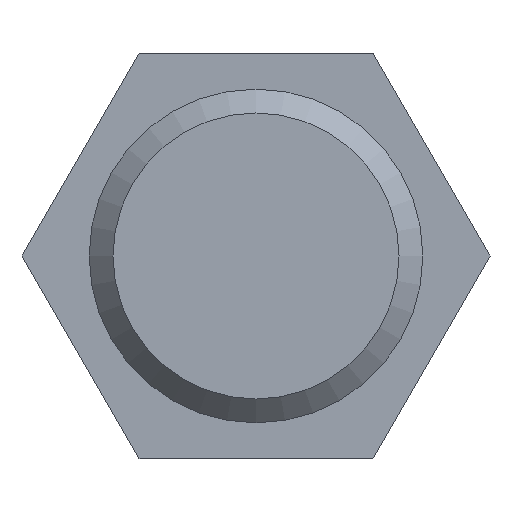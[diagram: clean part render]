
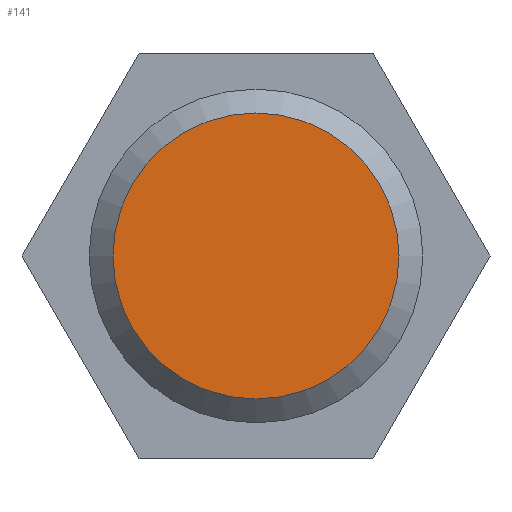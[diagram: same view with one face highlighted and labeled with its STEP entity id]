
A CAD part, left-side view. The second image highlights one B-rep face of the part: STEP entity #141.
In plain terms, the highlighted planar face has unit normal (-1, 0, 0).
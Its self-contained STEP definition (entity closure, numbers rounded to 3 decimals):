
#110=CARTESIAN_POINT('',(0.,6.0,0.));
#111=VERTEX_POINT('',#110);
#112=CARTESIAN_POINT('',(0.,0.0,0.0));
#113=DIRECTION('',(1.0,0.0,0.0));
#114=DIRECTION('',(0.0,-1.0,0.0));
#115=AXIS2_PLACEMENT_3D('',#112,#113,#114);
#116=CIRCLE('',#115,6.0);
#117=EDGE_CURVE('',#111,#111,#116,.T.);
#133=CARTESIAN_POINT('',(0.,3.5,0.0));
#134=DIRECTION('',(-1.0,0.0,0.0));
#135=DIRECTION('',(0.0,0.0,1.0));
#136=AXIS2_PLACEMENT_3D('',#133,#134,#135);
#137=PLANE('',#136);
#138=ORIENTED_EDGE('',*,*,#117,.F.);
#139=EDGE_LOOP('',(#138));
#140=FACE_OUTER_BOUND('',#139,.T.);
#141=ADVANCED_FACE('',(#140),#137,.T.);
